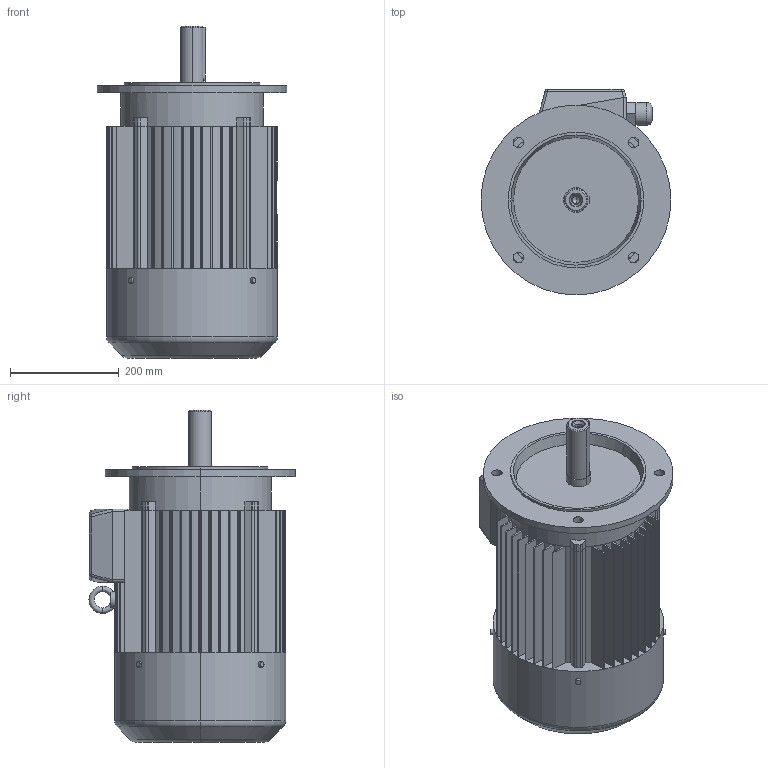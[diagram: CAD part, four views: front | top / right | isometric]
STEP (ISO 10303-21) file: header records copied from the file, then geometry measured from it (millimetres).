
FILE_DESCRIPTION (( 'STEP AP203' ), '1' );
FILE_NAME ('SKg 160M-B5.STEP', '2010-02-09T12:43:40', ( 'INDUKTA' ), ( 'CANTONI MOTOR' ), 'SwSTEP 2.0', 'SolidWorks 2003064', '' );
FILE_SCHEMA (( 'CONFIG_CONTROL_DESIGN' ));
Length unit declared in the file: millimetre
Products named in the file (1): SKg 160M-B5
Bounding box: 350 x 380 x 612 mm (x, y, z)
Volume: 33409952.4 mm3; surface area: 1585832 mm2
Topology: 12 solids, 12 shells, 496 faces, 1325 edges, 860 vertices
Faces by surface type: plane 244, cylinder 176, bspline 42, torus 16, cone 14, sphere 4
Entity records: 18603 total; most frequent: CARTESIAN_POINT 6169, ORIENTED_EDGE 2638, DIRECTION 2513, EDGE_CURVE 1319, VERTEX_POINT 860, AXIS2_PLACEMENT_3D 848, LINE 817, VECTOR 817
